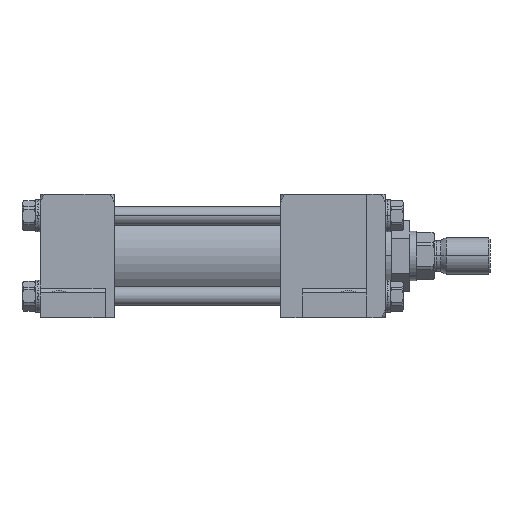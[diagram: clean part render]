
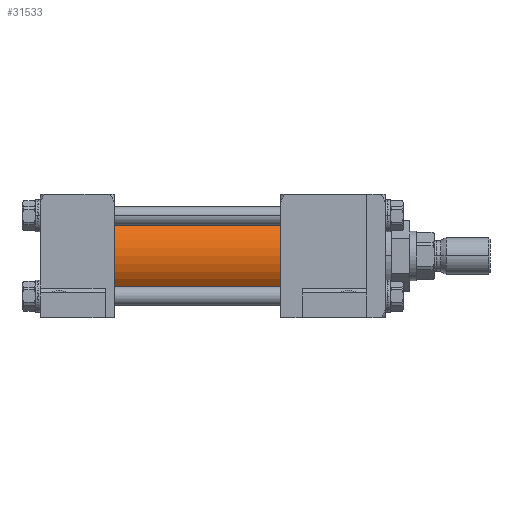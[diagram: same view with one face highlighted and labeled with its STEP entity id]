
A CAD part, front view. The second image highlights one B-rep face of the part: STEP entity #31533.
In plain terms, the highlighted cylindrical face has radius 23.812 mm (diameter 47.625 mm), a partial arc.
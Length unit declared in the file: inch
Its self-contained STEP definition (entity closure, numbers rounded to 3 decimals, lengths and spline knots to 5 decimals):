
#2517 = CARTESIAN_POINT ( 'NONE',  ( -2.875, 0., 0.9375 ) ) ;
#6376 = EDGE_LOOP ( 'NONE', ( #36766, #8706, #38163, #38047 ) ) ;
#7398 = EDGE_CURVE ( 'NONE', #32225, #46841, #50238, .T. ) ;
#8706 = ORIENTED_EDGE ( 'NONE', *, *, #13558, .T. ) ;
#9534 = CIRCLE ( 'NONE', #36424, 0.9375 ) ;
#10187 = DIRECTION ( 'NONE',  ( 1., 0., 0. ) ) ;
#10801 = LINE ( 'NONE', #20403, #13985 ) ;
#11022 = AXIS2_PLACEMENT_3D ( 'NONE', #13083, #51072, #21786 ) ;
#12456 = CYLINDRICAL_SURFACE ( 'NONE', #11022, 0.9375 ) ;
#13083 = CARTESIAN_POINT ( 'NONE',  ( -6.75, 0., 0. ) ) ;
#13085 = VERTEX_POINT ( 'NONE', #38347 ) ;
#13558 = EDGE_CURVE ( 'NONE', #13085, #51891, #9534, .T. ) ;
#13985 = VECTOR ( 'NONE', #10187, 39.37008 ) ;
#20403 = CARTESIAN_POINT ( 'NONE',  ( -6.75, 0., 0.9375 ) ) ;
#20596 = LINE ( 'NONE', #39726, #49321 ) ;
#21786 = DIRECTION ( 'NONE',  ( 0., 0., -1. ) ) ;
#22214 = DIRECTION ( 'NONE',  ( 0., 1., 0. ) ) ;
#23360 = AXIS2_PLACEMENT_3D ( 'NONE', #36100, #55109, #50391 ) ;
#27822 = CARTESIAN_POINT ( 'NONE',  ( -6.75, 0., 0. ) ) ;
#31533 = ADVANCED_FACE ( 'NONE', ( #45881 ), #12456, .T. ) ;
#32225 = VERTEX_POINT ( 'NONE', #2517 ) ;
#35511 = EDGE_CURVE ( 'NONE', #51891, #46841, #20596, .T. ) ;
#36100 = CARTESIAN_POINT ( 'NONE',  ( -2.875, 0., 0. ) ) ;
#36424 = AXIS2_PLACEMENT_3D ( 'NONE', #27822, #46290, #22214 ) ;
#36766 = ORIENTED_EDGE ( 'NONE', *, *, #55875, .F. ) ;
#38047 = ORIENTED_EDGE ( 'NONE', *, *, #7398, .F. ) ;
#38163 = ORIENTED_EDGE ( 'NONE', *, *, #35511, .T. ) ;
#38347 = CARTESIAN_POINT ( 'NONE',  ( -6.75, 0., 0.9375 ) ) ;
#39430 = DIRECTION ( 'NONE',  ( 1., 0., 0. ) ) ;
#39726 = CARTESIAN_POINT ( 'NONE',  ( -6.75, 0., -0.9375 ) ) ;
#45439 = CARTESIAN_POINT ( 'NONE',  ( -6.75, 0., -0.9375 ) ) ;
#45881 = FACE_OUTER_BOUND ( 'NONE', #6376, .T. ) ;
#46290 = DIRECTION ( 'NONE',  ( 1., 0., 0. ) ) ;
#46841 = VERTEX_POINT ( 'NONE', #57252 ) ;
#49321 = VECTOR ( 'NONE', #39430, 39.37008 ) ;
#50238 = CIRCLE ( 'NONE', #23360, 0.9375 ) ;
#50391 = DIRECTION ( 'NONE',  ( 0., 1., 0. ) ) ;
#51072 = DIRECTION ( 'NONE',  ( 1., 0., 0. ) ) ;
#51891 = VERTEX_POINT ( 'NONE', #45439 ) ;
#55109 = DIRECTION ( 'NONE',  ( 1., 0., 0. ) ) ;
#55875 = EDGE_CURVE ( 'NONE', #13085, #32225, #10801, .T. ) ;
#57252 = CARTESIAN_POINT ( 'NONE',  ( -2.875, 0., -0.9375 ) ) ;
